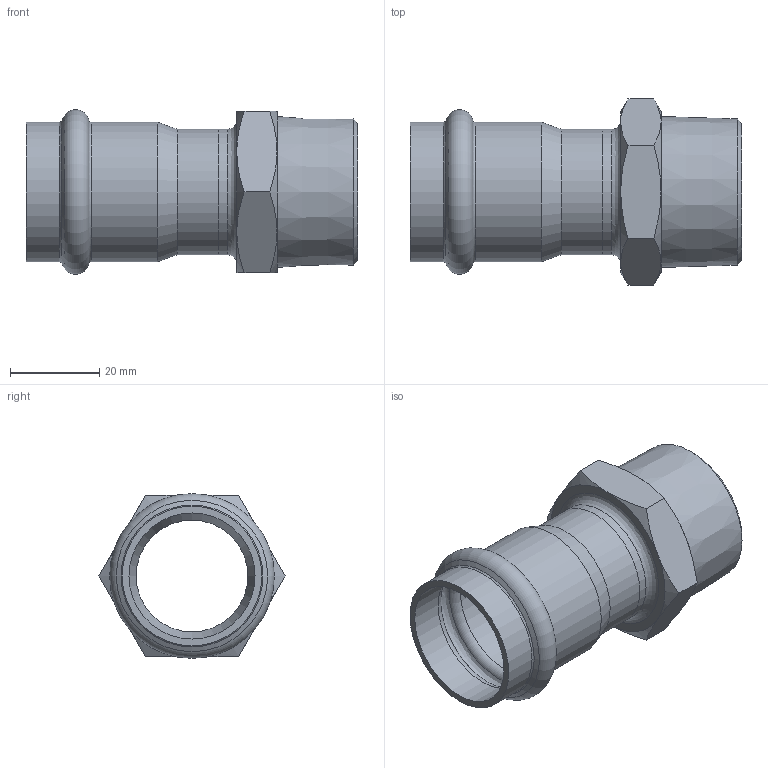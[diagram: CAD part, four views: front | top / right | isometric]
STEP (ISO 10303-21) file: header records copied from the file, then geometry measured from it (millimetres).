
FILE_DESCRIPTION((''),'2;1');
FILE_NAME('G:\Technics\CAD\Bauteile\028\69243G281(1).stp','2008-02-27T10:10:01',('herberg'),(''),'Autodesk Inventor 2008','Autodesk Inventor 2008','');
FILE_SCHEMA(('AUTOMOTIVE_DESIGN { 1 0 10303 214 1 1 1 1 }'));
Length unit declared in the file: millimetre
Products named in the file (3): 69243G281(1); 6924328HM(1); AG281(1)
Assembly tree (2 placements, depth 2):
  69243G281(1)
    6924328HM(1)
    AG281(1)
Bounding box: 74 x 41.57 x 36.78 mm (x, y, z)
Volume: 19206.5 mm3; surface area: 15524.6 mm2
Topology: 2 solids, 2 shells, 45 faces, 91 edges, 52 vertices
Faces by surface type: cone 18, plane 12, cylinder 7, bspline 5, torus 3
Full cylindrical faces by diameter (mm): 25 x1, 28 x2, 28.2 x2, 31.2 x2
Entity records: 1307 total; most frequent: CARTESIAN_POINT 445, DIRECTION 172, ORIENTED_EDGE 136, AXIS2_PLACEMENT_3D 83, EDGE_LOOP 72, EDGE_CURVE 68, VERTEX_POINT 50, FACE_OUTER_BOUND 45
